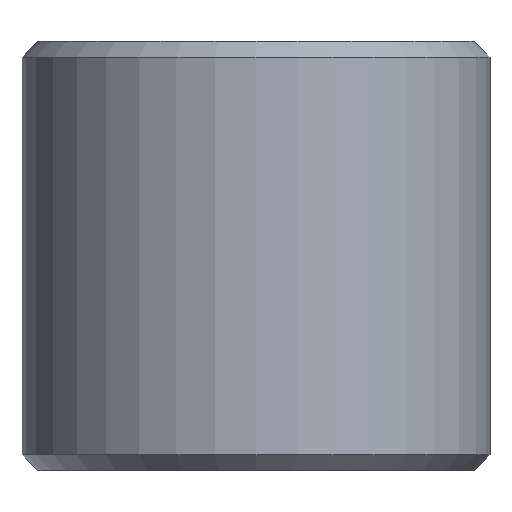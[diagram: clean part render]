
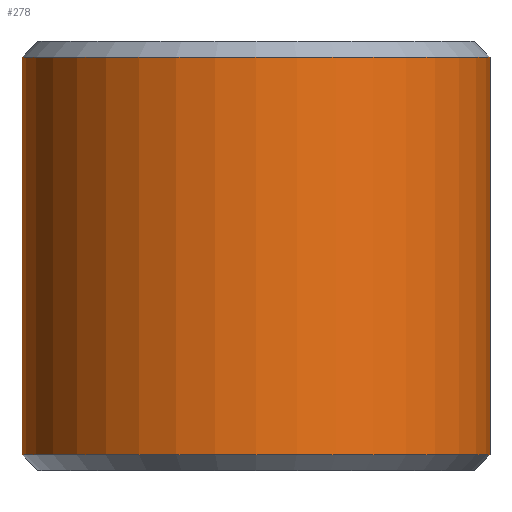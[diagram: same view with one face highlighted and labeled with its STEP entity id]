
A CAD part, front view. The second image highlights one B-rep face of the part: STEP entity #278.
In plain terms, the highlighted cylindrical face has radius 60 mm (diameter 120 mm), a partial arc.
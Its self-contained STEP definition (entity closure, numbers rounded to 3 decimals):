
#8 = VECTOR ( 'NONE', #177, 1000. ) ;
#37 = CIRCLE ( 'NONE', #214, 60. ) ;
#38 = CARTESIAN_POINT ( 'NONE',  ( 60., 0., 51. ) ) ;
#40 = CARTESIAN_POINT ( 'NONE',  ( 60., 0., -51. ) ) ;
#44 = DIRECTION ( 'NONE',  ( 0., 0., -1. ) ) ;
#46 = EDGE_CURVE ( 'NONE', #324, #326, #398, .T. ) ;
#50 = VERTEX_POINT ( 'NONE', #53 ) ;
#53 = CARTESIAN_POINT ( 'NONE',  ( -60., 0., 51. ) ) ;
#58 = ORIENTED_EDGE ( 'NONE', *, *, #319, .T. ) ;
#73 = DIRECTION ( 'NONE',  ( 0., 0., -1. ) ) ;
#114 = AXIS2_PLACEMENT_3D ( 'NONE', #250, #414, #382 ) ;
#115 = CARTESIAN_POINT ( 'NONE',  ( 60., 0., 55. ) ) ;
#131 = AXIS2_PLACEMENT_3D ( 'NONE', #365, #256, #388 ) ;
#147 = CARTESIAN_POINT ( 'NONE',  ( -60., 0., 55. ) ) ;
#160 = EDGE_LOOP ( 'NONE', ( #258, #325, #58, #435 ) ) ;
#177 = DIRECTION ( 'NONE',  ( 0., 0., -1. ) ) ;
#214 = AXIS2_PLACEMENT_3D ( 'NONE', #281, #44, #249 ) ;
#218 = FACE_OUTER_BOUND ( 'NONE', #160, .T. ) ;
#232 = VERTEX_POINT ( 'NONE', #38 ) ;
#245 = CARTESIAN_POINT ( 'NONE',  ( -60., 0., -51. ) ) ;
#249 = DIRECTION ( 'NONE',  ( 1., 0., 0. ) ) ;
#250 = CARTESIAN_POINT ( 'NONE',  ( 0., 0., 55. ) ) ;
#256 = DIRECTION ( 'NONE',  ( 0., 0., 1. ) ) ;
#258 = ORIENTED_EDGE ( 'NONE', *, *, #361, .F. ) ;
#278 = ADVANCED_FACE ( 'NONE', ( #218 ), #282, .T. ) ;
#280 = LINE ( 'NONE', #115, #8 ) ;
#281 = CARTESIAN_POINT ( 'NONE',  ( 0., 0., 51. ) ) ;
#282 = CYLINDRICAL_SURFACE ( 'NONE', #114, 60. ) ;
#310 = EDGE_CURVE ( 'NONE', #232, #50, #37, .T. ) ;
#319 = EDGE_CURVE ( 'NONE', #50, #324, #380, .T. ) ;
#324 = VERTEX_POINT ( 'NONE', #245 ) ;
#325 = ORIENTED_EDGE ( 'NONE', *, *, #310, .T. ) ;
#326 = VERTEX_POINT ( 'NONE', #40 ) ;
#339 = VECTOR ( 'NONE', #73, 1000. ) ;
#361 = EDGE_CURVE ( 'NONE', #232, #326, #280, .T. ) ;
#365 = CARTESIAN_POINT ( 'NONE',  ( 0., 0., -51. ) ) ;
#380 = LINE ( 'NONE', #147, #339 ) ;
#382 = DIRECTION ( 'NONE',  ( -1., 0., 0. ) ) ;
#388 = DIRECTION ( 'NONE',  ( 1., 0., 0. ) ) ;
#398 = CIRCLE ( 'NONE', #131, 60. ) ;
#414 = DIRECTION ( 'NONE',  ( 0., 0., -1. ) ) ;
#435 = ORIENTED_EDGE ( 'NONE', *, *, #46, .T. ) ;
